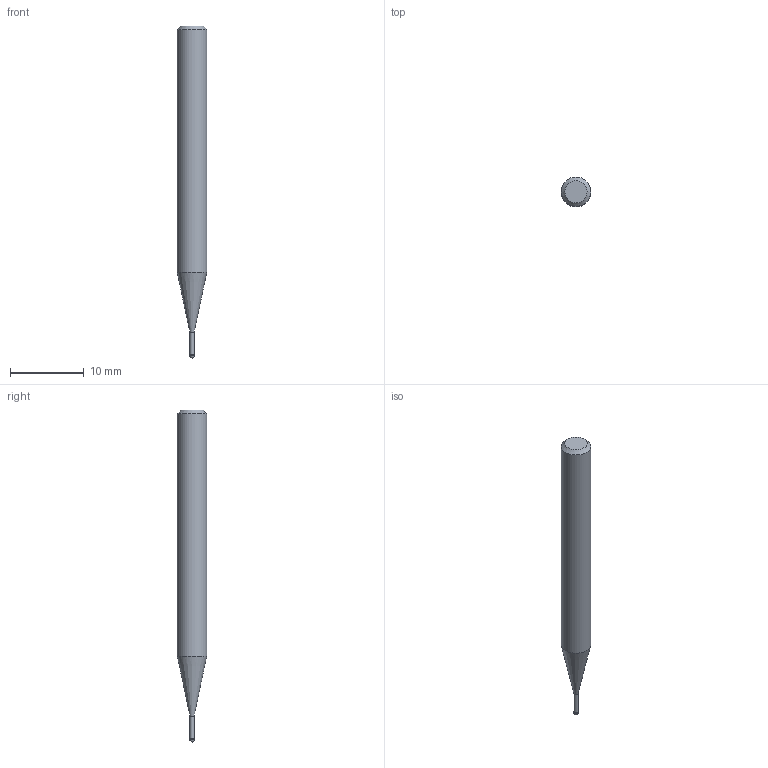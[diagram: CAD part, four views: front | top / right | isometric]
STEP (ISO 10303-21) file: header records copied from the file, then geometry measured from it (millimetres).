
FILE_DESCRIPTION((''),'2;1');
FILE_NAME('C:\Users\nsx150\AppData\Local\Temp\Mastercam 2021\3SYKECWX22\TEMP.step','2021-04-22T10:00:49',(''),(''),'STEP Write','Mastercam 2021 ... CNC Software, Inc.','');
FILE_SCHEMA(('AUTOMOTIVE_DESIGN'));
Length unit declared in the file: millimetre
Products named in the file (1): None
Bounding box: 4 x 4 x 45 mm (x, y, z)
Volume: 458.5 mm3; surface area: 494.4 mm2
Topology: 2 solids, 2 shells, 9 faces, 14 edges, 8 vertices
Faces by surface type: plane 3, cylinder 3, cone 2, sphere 1
Full cylindrical faces by diameter (mm): 0.56 x1, 0.6 x1, 4 x1
Entity records: 211 total; most frequent: DIRECTION 36, CARTESIAN_POINT 25, AXIS2_PLACEMENT_3D 18, ORIENTED_EDGE 14, EDGE_LOOP 14, STYLED_ITEM 12, ADVANCED_FACE 9, FACE_BOUND 8
